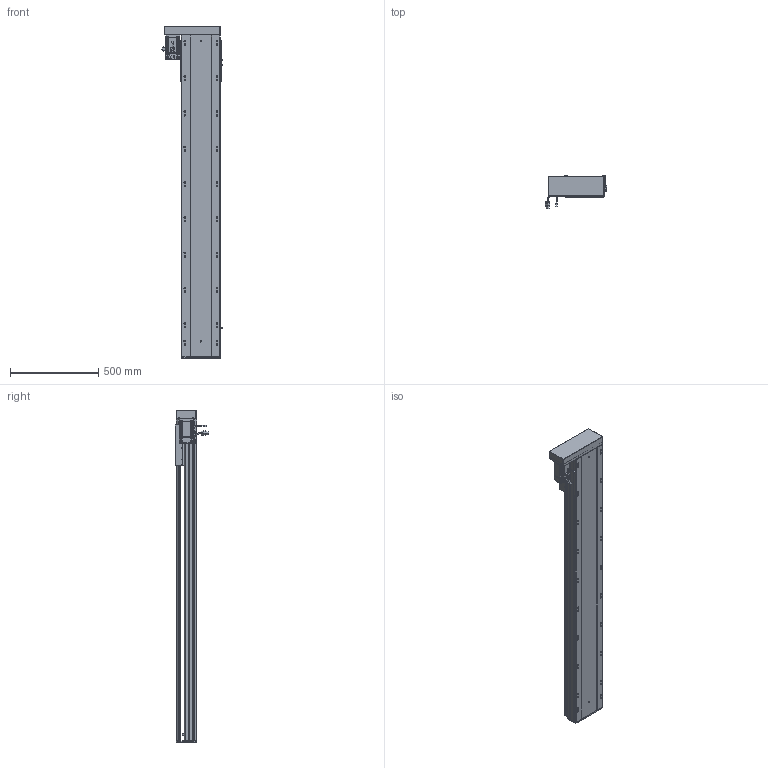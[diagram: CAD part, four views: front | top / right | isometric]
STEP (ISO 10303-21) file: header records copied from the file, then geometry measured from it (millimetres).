
FILE_DESCRIPTION (( 'STEP AP203' ), '1' );
FILE_NAME ('RY220-L2525-300-LK.SLDASM_1500.step', '2022-07-04T01:47:27', ( '' ), ( '' ), 'SwSTEP 2.0', 'SolidWorks 2016', '' );
FILE_SCHEMA (( 'CONFIG_CONTROL_DESIGN' ));
Length unit declared in the file: millimetre
Products named in the file (12): RY220蛌殏菁釱-300_1500; 滅袉蝶18-15; RY220-L2525-300-LK.SLDASM_1500; 怢湛750W_ECMA-CX0807ES; RY220綴裔啣; 覜茼ん672; RY220-俋离672覜茼んえ; RY220-300-蛌殏奻裔啣_1500; RY220左右折电机安装板; RY220半封闭25-32螺母铝滑块; 滅袉蝶18-10; RY220酘衵殏萇儂欶
Assembly tree (15 placements, depth 2):
  RY220-L2525-300-LK.SLDASM_1500
    RY220蛌殏菁釱-300_1500
    RY220-300-蛌殏奻裔啣_1500
    怢湛750W_ECMA-CX0807ES
    滅袉蝶18-10  x2
    RY220-俋离672覜茼んえ
    覜茼ん672  x3
    RY220綴裔啣
    RY220半封闭25-32螺母铝滑块
    滅袉蝶18-15  x2
    RY220左右折电机安装板
    RY220酘衵殏萇儂欶
Bounding box: 347.44 x 189.27 x 1882 mm (x, y, z)
Volume: 14794411.5 mm3; surface area: 4432845.3 mm2
Topology: 16 solids, 16 shells, 2261 faces, 6244 edges, 3931 vertices
Faces by surface type: cylinder 1041, plane 896, cone 254, bspline 44, sphere 16, torus 10
Entity records: 74745 total; most frequent: CARTESIAN_POINT 21611, ORIENTED_EDGE 11008, DIRECTION 10432, EDGE_CURVE 5504, AXIS2_PLACEMENT_3D 3695, VERTEX_POINT 3587, VECTOR 3042, LINE 3042
